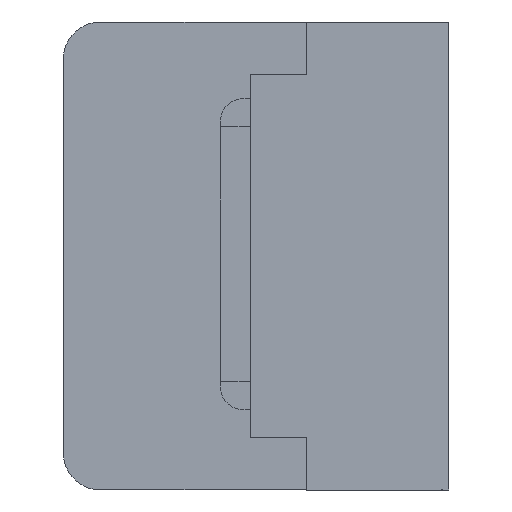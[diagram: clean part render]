
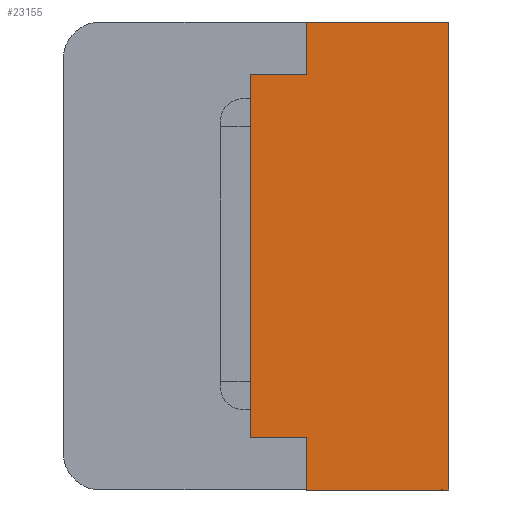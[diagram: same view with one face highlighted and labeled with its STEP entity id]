
A CAD part, left-side view. The second image highlights one B-rep face of the part: STEP entity #23155.
In plain terms, the highlighted planar face has unit normal (-1, 0, 0).
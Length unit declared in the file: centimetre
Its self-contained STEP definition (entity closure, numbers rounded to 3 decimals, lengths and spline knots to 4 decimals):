
#1428=PLANE('',#38120);
#2148=VECTOR('',#24449,1.);
#2237=VECTOR('',#24573,1.);
#2239=VECTOR('',#24578,1.);
#2272=VECTOR('',#24612,1.);
#3595=VECTOR('',#27642,1.);
#3596=VECTOR('',#27643,1.);
#3597=VECTOR('',#27644,1.);
#3598=VECTOR('',#27645,1.);
#4574=LINE('',#30307,#2148);
#4663=LINE('',#30500,#2237);
#4665=LINE('',#30506,#2239);
#4698=LINE('',#30571,#2272);
#6021=LINE('',#35203,#3595);
#6022=LINE('',#35205,#3596);
#6023=LINE('',#35206,#3597);
#6024=LINE('',#35208,#3598);
#6936=VERTEX_POINT('',#30306);
#6937=VERTEX_POINT('',#30308);
#6978=VERTEX_POINT('',#30424);
#7015=VERTEX_POINT('',#30499);
#7017=VERTEX_POINT('',#30505);
#7049=VERTEX_POINT('',#30572);
#8339=VERTEX_POINT('',#35204);
#8340=VERTEX_POINT('',#35207);
#9906=EDGE_CURVE('',#6936,#6937,#4574,.T.);
#10002=EDGE_CURVE('',#7015,#6978,#4663,.T.);
#10005=EDGE_CURVE('',#6978,#7017,#4665,.T.);
#10038=EDGE_CURVE('',#7017,#7049,#4698,.T.);
#12030=EDGE_CURVE('',#8339,#7015,#6021,.T.);
#12031=EDGE_CURVE('',#6937,#8339,#6022,.T.);
#12032=EDGE_CURVE('',#8340,#6936,#6023,.T.);
#12033=EDGE_CURVE('',#7049,#8340,#6024,.T.);
#18329=ORIENTED_EDGE('',*,*,#12030,.F.);
#18330=ORIENTED_EDGE('',*,*,#12031,.F.);
#18331=ORIENTED_EDGE('',*,*,#9906,.F.);
#18332=ORIENTED_EDGE('',*,*,#12032,.F.);
#18333=ORIENTED_EDGE('',*,*,#12033,.F.);
#18334=ORIENTED_EDGE('',*,*,#10038,.F.);
#18335=ORIENTED_EDGE('',*,*,#10005,.F.);
#18336=ORIENTED_EDGE('',*,*,#10002,.F.);
#20499=EDGE_LOOP('',(#18329,#18330,#18331,#18332,#18333,#18334,#18335,#18336));
#21873=FACE_BOUND('',#20499,.T.);
#23155=ADVANCED_FACE('',(#21873),#1428,.F.);
#24449=DIRECTION('',(0.,0.,1.));
#24573=DIRECTION('',(0.,-1.,0.));
#24578=DIRECTION('',(0.,0.,-1.));
#24612=DIRECTION('',(0.,1.,0.));
#27641=DIRECTION('',(1.,0.,0.));
#27642=DIRECTION('',(0.,0.,1.));
#27643=DIRECTION('',(0.,-1.,0.));
#27644=DIRECTION('',(0.,1.,0.));
#27645=DIRECTION('',(0.,0.,1.));
#30306=CARTESIAN_POINT('',(-1.382,0.53,-0.485));
#30307=CARTESIAN_POINT('',(-1.382,0.53,-0.485));
#30308=CARTESIAN_POINT('',(-1.382,0.53,0.485));
#30424=CARTESIAN_POINT('',(-1.382,0.,0.625));
#30499=CARTESIAN_POINT('',(-1.382,0.38,0.625));
#30500=CARTESIAN_POINT('',(-1.382,0.38,0.625));
#30505=CARTESIAN_POINT('',(-1.382,0.,-0.625));
#30506=CARTESIAN_POINT('',(-1.382,0.,0.625));
#30571=CARTESIAN_POINT('',(-1.382,0.,-0.625));
#30572=CARTESIAN_POINT('',(-1.382,0.38,-0.625));
#35202=CARTESIAN_POINT('',(-1.382,0.2532,0.));
#35203=CARTESIAN_POINT('',(-1.382,0.38,0.485));
#35204=CARTESIAN_POINT('',(-1.382,0.38,0.485));
#35205=CARTESIAN_POINT('',(-1.382,0.53,0.485));
#35206=CARTESIAN_POINT('',(-1.382,0.38,-0.485));
#35207=CARTESIAN_POINT('',(-1.382,0.38,-0.485));
#35208=CARTESIAN_POINT('',(-1.382,0.38,-0.625));
#38120=AXIS2_PLACEMENT_3D('',#35202,#27641,$);
